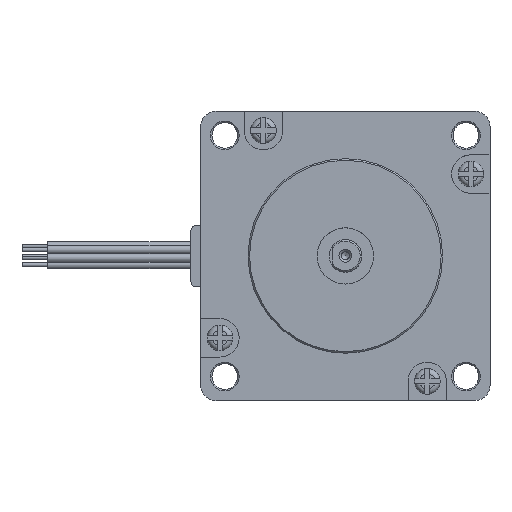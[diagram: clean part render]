
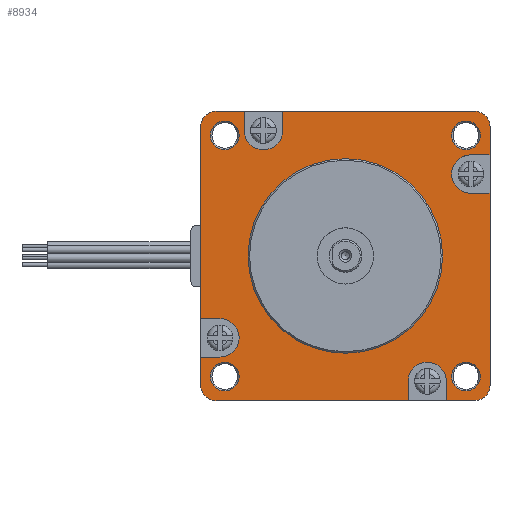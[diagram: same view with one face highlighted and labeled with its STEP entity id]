
A CAD part, top view. The second image highlights one B-rep face of the part: STEP entity #8934.
In plain terms, the highlighted planar face has unit normal (0, 0, 1).
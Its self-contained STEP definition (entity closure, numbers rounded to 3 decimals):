
#397=CIRCLE('',#9462,3.75);
#399=CIRCLE('',#9471,3.75);
#401=CIRCLE('',#9479,3.75);
#402=CIRCLE('',#9483,3.);
#403=CIRCLE('',#9484,3.);
#404=CIRCLE('',#9485,3.);
#405=CIRCLE('',#9486,3.75);
#406=CIRCLE('',#9487,3.);
#407=CIRCLE('',#9488,2.8);
#408=CIRCLE('',#9489,2.8);
#409=CIRCLE('',#9490,19.);
#410=CIRCLE('',#9491,2.8);
#411=CIRCLE('',#9492,2.8);
#533=FACE_BOUND('',#1589,.T.);
#534=FACE_BOUND('',#1590,.T.);
#535=FACE_BOUND('',#1591,.T.);
#536=FACE_BOUND('',#1592,.T.);
#537=FACE_BOUND('',#1593,.T.);
#1012=FACE_OUTER_BOUND('',#1588,.T.);
#1588=EDGE_LOOP('',(#7659,#7660,#7661,#7662,#7663,#7664,#7665,#7666,#7667,
#7668,#7669,#7670,#7671,#7672,#7673,#7674,#7675,#7676,#7677,#7678,#7679,
#7680,#7681,#7682));
#1589=EDGE_LOOP('',(#7683));
#1590=EDGE_LOOP('',(#7684));
#1591=EDGE_LOOP('',(#7685));
#1592=EDGE_LOOP('',(#7686));
#1593=EDGE_LOOP('',(#7687));
#2368=LINE('',#15391,#3221);
#2372=LINE('',#15398,#3225);
#2374=LINE('',#15403,#3227);
#2380=LINE('',#15412,#3233);
#2384=LINE('',#15428,#3237);
#2388=LINE('',#15435,#3241);
#2390=LINE('',#15440,#3243);
#2396=LINE('',#15449,#3249);
#2399=LINE('',#15457,#3252);
#2403=LINE('',#15469,#3256);
#2406=LINE('',#15476,#3259);
#2407=LINE('',#15478,#3260);
#2408=LINE('',#15483,#3261);
#2409=LINE('',#15485,#3262);
#2410=LINE('',#15489,#3263);
#2411=LINE('',#15491,#3264);
#3221=VECTOR('',#11114,3.75);
#3225=VECTOR('',#11120,3.75);
#3227=VECTOR('',#11126,37.5);
#3233=VECTOR('',#11132,5.5);
#3237=VECTOR('',#11148,3.75);
#3241=VECTOR('',#11154,3.75);
#3243=VECTOR('',#11160,37.5);
#3249=VECTOR('',#11166,5.5);
#3252=VECTOR('',#11171,3.75);
#3256=VECTOR('',#11183,3.75);
#3259=VECTOR('',#11192,37.5);
#3260=VECTOR('',#11193,5.5);
#3261=VECTOR('',#11198,37.5);
#3262=VECTOR('',#11199,3.75);
#3263=VECTOR('',#11202,3.75);
#3264=VECTOR('',#11203,5.5);
#4320=VERTEX_POINT('',#15382);
#4321=VERTEX_POINT('',#15384);
#4323=VERTEX_POINT('',#15390);
#4325=VERTEX_POINT('',#15396);
#4326=VERTEX_POINT('',#15402);
#4329=VERTEX_POINT('',#15410);
#4332=VERTEX_POINT('',#15419);
#4333=VERTEX_POINT('',#15421);
#4335=VERTEX_POINT('',#15427);
#4337=VERTEX_POINT('',#15433);
#4338=VERTEX_POINT('',#15439);
#4341=VERTEX_POINT('',#15447);
#4344=VERTEX_POINT('',#15454);
#4345=VERTEX_POINT('',#15456);
#4347=VERTEX_POINT('',#15462);
#4349=VERTEX_POINT('',#15468);
#4350=VERTEX_POINT('',#15474);
#4351=VERTEX_POINT('',#15477);
#4352=VERTEX_POINT('',#15480);
#4353=VERTEX_POINT('',#15482);
#4354=VERTEX_POINT('',#15484);
#4355=VERTEX_POINT('',#15486);
#4356=VERTEX_POINT('',#15488);
#4357=VERTEX_POINT('',#15490);
#4358=VERTEX_POINT('',#15493);
#4359=VERTEX_POINT('',#15495);
#4360=VERTEX_POINT('',#15497);
#4361=VERTEX_POINT('',#15499);
#4362=VERTEX_POINT('',#15501);
#5452=EDGE_CURVE('',#4321,#4320,#397,.T.);
#5455=EDGE_CURVE('',#4323,#4321,#2368,.T.);
#5459=EDGE_CURVE('',#4320,#4325,#2372,.T.);
#5461=EDGE_CURVE('',#4323,#4326,#2374,.T.);
#5467=EDGE_CURVE('',#4329,#4325,#2380,.T.);
#5470=EDGE_CURVE('',#4333,#4332,#399,.T.);
#5473=EDGE_CURVE('',#4335,#4333,#2384,.T.);
#5477=EDGE_CURVE('',#4332,#4337,#2388,.T.);
#5479=EDGE_CURVE('',#4335,#4338,#2390,.T.);
#5485=EDGE_CURVE('',#4341,#4337,#2396,.T.);
#5488=EDGE_CURVE('',#4345,#4344,#2399,.T.);
#5491=EDGE_CURVE('',#4347,#4345,#401,.T.);
#5494=EDGE_CURVE('',#4349,#4347,#2403,.T.);
#5497=EDGE_CURVE('',#4350,#4329,#402,.T.);
#5498=EDGE_CURVE('',#4349,#4350,#2406,.T.);
#5499=EDGE_CURVE('',#4351,#4344,#2407,.T.);
#5500=EDGE_CURVE('',#4338,#4351,#403,.T.);
#5501=EDGE_CURVE('',#4352,#4341,#404,.T.);
#5502=EDGE_CURVE('',#4353,#4352,#2408,.T.);
#5503=EDGE_CURVE('',#4353,#4354,#2409,.T.);
#5504=EDGE_CURVE('',#4354,#4355,#405,.T.);
#5505=EDGE_CURVE('',#4355,#4356,#2410,.T.);
#5506=EDGE_CURVE('',#4357,#4356,#2411,.T.);
#5507=EDGE_CURVE('',#4326,#4357,#406,.T.);
#5508=EDGE_CURVE('',#4358,#4358,#407,.T.);
#5509=EDGE_CURVE('',#4359,#4359,#408,.T.);
#5510=EDGE_CURVE('',#4360,#4360,#409,.T.);
#5511=EDGE_CURVE('',#4361,#4361,#410,.T.);
#5512=EDGE_CURVE('',#4362,#4362,#411,.T.);
#7659=ORIENTED_EDGE('',*,*,#5459,.T.);
#7660=ORIENTED_EDGE('',*,*,#5467,.F.);
#7661=ORIENTED_EDGE('',*,*,#5497,.F.);
#7662=ORIENTED_EDGE('',*,*,#5498,.F.);
#7663=ORIENTED_EDGE('',*,*,#5494,.T.);
#7664=ORIENTED_EDGE('',*,*,#5491,.T.);
#7665=ORIENTED_EDGE('',*,*,#5488,.T.);
#7666=ORIENTED_EDGE('',*,*,#5499,.F.);
#7667=ORIENTED_EDGE('',*,*,#5500,.F.);
#7668=ORIENTED_EDGE('',*,*,#5479,.F.);
#7669=ORIENTED_EDGE('',*,*,#5473,.T.);
#7670=ORIENTED_EDGE('',*,*,#5470,.T.);
#7671=ORIENTED_EDGE('',*,*,#5477,.T.);
#7672=ORIENTED_EDGE('',*,*,#5485,.F.);
#7673=ORIENTED_EDGE('',*,*,#5501,.F.);
#7674=ORIENTED_EDGE('',*,*,#5502,.F.);
#7675=ORIENTED_EDGE('',*,*,#5503,.T.);
#7676=ORIENTED_EDGE('',*,*,#5504,.T.);
#7677=ORIENTED_EDGE('',*,*,#5505,.T.);
#7678=ORIENTED_EDGE('',*,*,#5506,.F.);
#7679=ORIENTED_EDGE('',*,*,#5507,.F.);
#7680=ORIENTED_EDGE('',*,*,#5461,.F.);
#7681=ORIENTED_EDGE('',*,*,#5455,.T.);
#7682=ORIENTED_EDGE('',*,*,#5452,.T.);
#7683=ORIENTED_EDGE('',*,*,#5508,.F.);
#7684=ORIENTED_EDGE('',*,*,#5509,.F.);
#7685=ORIENTED_EDGE('',*,*,#5510,.T.);
#7686=ORIENTED_EDGE('',*,*,#5511,.F.);
#7687=ORIENTED_EDGE('',*,*,#5512,.F.);
#8492=PLANE('',#9482);
#8934=ADVANCED_FACE('',(#1012,#533,#534,#535,#536,#537),#8492,.T.);
#9462=AXIS2_PLACEMENT_3D('',#15385,#11108,#11109);
#9471=AXIS2_PLACEMENT_3D('',#15422,#11142,#11143);
#9479=AXIS2_PLACEMENT_3D('',#15463,#11177,#11178);
#9482=AXIS2_PLACEMENT_3D('',#15473,#11188,#11189);
#9483=AXIS2_PLACEMENT_3D('',#15475,#11190,#11191);
#9484=AXIS2_PLACEMENT_3D('',#15479,#11194,#11195);
#9485=AXIS2_PLACEMENT_3D('',#15481,#11196,#11197);
#9486=AXIS2_PLACEMENT_3D('',#15487,#11200,#11201);
#9487=AXIS2_PLACEMENT_3D('',#15492,#11204,#11205);
#9488=AXIS2_PLACEMENT_3D('',#15494,#11206,#11207);
#9489=AXIS2_PLACEMENT_3D('',#15496,#11208,#11209);
#9490=AXIS2_PLACEMENT_3D('',#15498,#11210,#11211);
#9491=AXIS2_PLACEMENT_3D('',#15500,#11212,#11213);
#9492=AXIS2_PLACEMENT_3D('',#15502,#11214,#11215);
#11108=DIRECTION('center_axis',(0.,0.,-1.));
#11109=DIRECTION('ref_axis',(-1.,0.,0.));
#11114=DIRECTION('',(0.,-1.,0.));
#11120=DIRECTION('',(0.,1.,0.));
#11126=DIRECTION('',(1.,0.,0.));
#11132=DIRECTION('',(1.,0.,0.));
#11142=DIRECTION('center_axis',(0.,0.,-1.));
#11143=DIRECTION('ref_axis',(1.,0.,0.));
#11148=DIRECTION('',(0.,1.,0.));
#11154=DIRECTION('',(0.,-1.,0.));
#11160=DIRECTION('',(-1.,0.,0.));
#11166=DIRECTION('',(-1.,0.,0.));
#11171=DIRECTION('',(-1.,0.,0.));
#11177=DIRECTION('center_axis',(0.,0.,-1.));
#11178=DIRECTION('ref_axis',(0.,-1.,0.));
#11183=DIRECTION('',(1.,0.,0.));
#11188=DIRECTION('center_axis',(0.,0.,1.));
#11189=DIRECTION('ref_axis',(1.,0.,0.));
#11190=DIRECTION('center_axis',(0.,0.,-1.));
#11191=DIRECTION('ref_axis',(-0.707,0.707,0.));
#11192=DIRECTION('',(0.,1.,0.));
#11193=DIRECTION('',(0.,1.,0.));
#11194=DIRECTION('center_axis',(0.,0.,-1.));
#11195=DIRECTION('ref_axis',(-0.707,-0.707,0.));
#11196=DIRECTION('center_axis',(0.,0.,-1.));
#11197=DIRECTION('ref_axis',(0.707,-0.707,0.));
#11198=DIRECTION('',(0.,-1.,0.));
#11199=DIRECTION('',(-1.,0.,0.));
#11200=DIRECTION('center_axis',(0.,0.,-1.));
#11201=DIRECTION('ref_axis',(0.,1.,0.));
#11202=DIRECTION('',(1.,0.,0.));
#11203=DIRECTION('',(0.,-1.,0.));
#11204=DIRECTION('center_axis',(0.,0.,-1.));
#11205=DIRECTION('ref_axis',(0.707,0.707,0.));
#11206=DIRECTION('center_axis',(0.,0.,1.));
#11207=DIRECTION('ref_axis',(-1.,0.,0.));
#11208=DIRECTION('center_axis',(0.,0.,1.));
#11209=DIRECTION('ref_axis',(-1.,0.,0.));
#11210=DIRECTION('center_axis',(0.,0.,-1.));
#11211=DIRECTION('ref_axis',(-1.,0.,0.));
#11212=DIRECTION('center_axis',(0.,0.,1.));
#11213=DIRECTION('ref_axis',(-1.,0.,0.));
#11214=DIRECTION('center_axis',(0.,0.,1.));
#11215=DIRECTION('ref_axis',(-1.,0.,0.));
#15382=CARTESIAN_POINT('',(8.5,52.75,9.));
#15384=CARTESIAN_POINT('',(16.,52.75,9.));
#15385=CARTESIAN_POINT('Origin',(12.25,52.75,9.));
#15390=CARTESIAN_POINT('',(16.,56.5,9.));
#15391=CARTESIAN_POINT('',(16.,40.5,9.));
#15396=CARTESIAN_POINT('',(8.5,56.5,9.));
#15398=CARTESIAN_POINT('',(8.5,42.375,9.));
#15402=CARTESIAN_POINT('',(53.5,56.5,9.));
#15403=CARTESIAN_POINT('',(56.5,56.5,9.));
#15410=CARTESIAN_POINT('',(3.,56.5,9.));
#15412=CARTESIAN_POINT('',(56.5,56.5,9.));
#15419=CARTESIAN_POINT('',(48.,3.75,9.));
#15421=CARTESIAN_POINT('',(40.5,3.75,9.));
#15422=CARTESIAN_POINT('Origin',(44.25,3.75,9.));
#15427=CARTESIAN_POINT('',(40.5,0.,9.));
#15428=CARTESIAN_POINT('',(40.5,16.,9.));
#15433=CARTESIAN_POINT('',(48.,0.,9.));
#15435=CARTESIAN_POINT('',(48.,14.125,9.));
#15439=CARTESIAN_POINT('',(3.,0.,9.));
#15440=CARTESIAN_POINT('',(0.,0.,9.));
#15447=CARTESIAN_POINT('',(53.5,0.,9.));
#15449=CARTESIAN_POINT('',(0.,0.,9.));
#15454=CARTESIAN_POINT('',(0.,8.5,9.));
#15456=CARTESIAN_POINT('',(3.75,8.5,9.));
#15457=CARTESIAN_POINT('',(14.125,8.5,9.));
#15462=CARTESIAN_POINT('',(3.75,16.,9.));
#15463=CARTESIAN_POINT('Origin',(3.75,12.25,9.));
#15468=CARTESIAN_POINT('',(0.,16.,9.));
#15469=CARTESIAN_POINT('',(16.,16.,9.));
#15473=CARTESIAN_POINT('Origin',(28.25,28.25,9.));
#15474=CARTESIAN_POINT('',(0.,53.5,9.));
#15475=CARTESIAN_POINT('Origin',(3.,53.5,9.));
#15476=CARTESIAN_POINT('',(0.,56.5,9.));
#15477=CARTESIAN_POINT('',(0.,3.,9.));
#15478=CARTESIAN_POINT('',(0.,56.5,9.));
#15479=CARTESIAN_POINT('Origin',(3.,3.,9.));
#15480=CARTESIAN_POINT('',(56.5,3.,9.));
#15481=CARTESIAN_POINT('Origin',(53.5,3.,9.));
#15482=CARTESIAN_POINT('',(56.5,40.5,9.));
#15483=CARTESIAN_POINT('',(56.5,0.,9.));
#15484=CARTESIAN_POINT('',(52.75,40.5,9.));
#15485=CARTESIAN_POINT('',(40.5,40.5,9.));
#15486=CARTESIAN_POINT('',(52.75,48.,9.));
#15487=CARTESIAN_POINT('Origin',(52.75,44.25,9.));
#15488=CARTESIAN_POINT('',(56.5,48.,9.));
#15489=CARTESIAN_POINT('',(42.375,48.,9.));
#15490=CARTESIAN_POINT('',(56.5,53.5,9.));
#15491=CARTESIAN_POINT('',(56.5,0.,9.));
#15492=CARTESIAN_POINT('Origin',(53.5,53.5,9.));
#15493=CARTESIAN_POINT('',(54.6,51.8,9.));
#15494=CARTESIAN_POINT('Origin',(51.8,51.8,9.));
#15495=CARTESIAN_POINT('',(7.5,4.7,9.));
#15496=CARTESIAN_POINT('Origin',(4.7,4.7,9.));
#15497=CARTESIAN_POINT('',(47.25,28.25,9.));
#15498=CARTESIAN_POINT('Origin',(28.25,28.25,9.));
#15499=CARTESIAN_POINT('',(7.5,51.8,9.));
#15500=CARTESIAN_POINT('Origin',(4.7,51.8,9.));
#15501=CARTESIAN_POINT('',(54.6,4.7,9.));
#15502=CARTESIAN_POINT('Origin',(51.8,4.7,9.));
